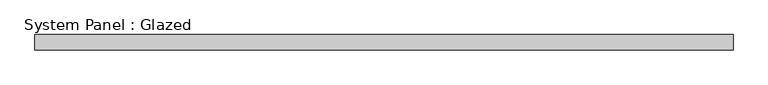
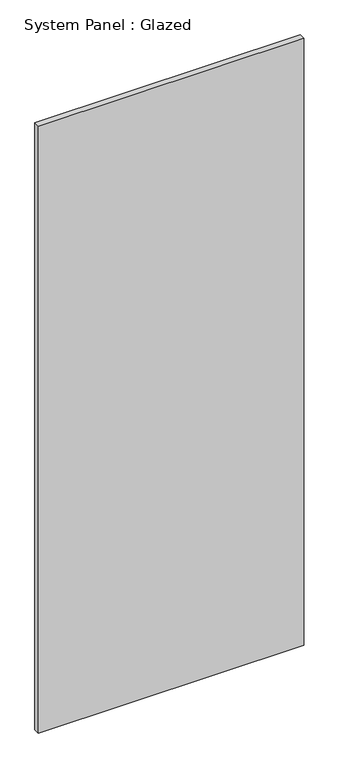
"""IFC4 building model written with IfcOpenShell, lengths in millimetres: plate geometry, System Panel : Glazed."""

import ifcopenshell
import ifcopenshell.guid

model = None  # the IFC model being written
_history = None  # IfcOwnerHistory: only IFC2X3 demands one
_inside = {}  # id of a spatial element -> (the spatial element, [elements in it])
_under = {}  # id of a project, library or spatial element -> (it, [spatial elements below it])
_declared = {}  # id of a project -> (the project, [libraries it declares])
_typed = {}  # id of a type object -> (the type object, [elements of that type])
_made_of = {}  # id of a material, layer set ... -> (it, [elements and type objects made of it])


def new_model(schema):
    """Start an empty IFC model of exactly this schema.

    Asked for "IFC4X3", IfcOpenShell would pick the latest addendum, in which some entities
    have other attributes; the version numbers below select the first issue.
    IFC2X3 requires an IfcOwnerHistory on every rooted entity: one is made here for all.
    """
    global model, _history
    if schema == "IFC4X3":
        model = ifcopenshell.file(schema_version=(4, 3, 0, 0))
    else:
        model = ifcopenshell.file(schema=schema)
    _inside.clear()
    _under.clear()
    _declared.clear()
    _typed.clear()
    _made_of.clear()
    _history = None
    if model.schema == "IFC2X3":
        org = make("IfcOrganization", Name="unknown")
        user = make(
            "IfcPersonAndOrganization",
            ThePerson=make("IfcPerson", FamilyName="unknown"),
            TheOrganization=org,
        )
        app = make(
            "IfcApplication",
            ApplicationDeveloper=org,
            Version="unknown",
            ApplicationFullName="unknown",
            ApplicationIdentifier="unknown",
        )
        _history = make(
            "IfcOwnerHistory",
            OwningUser=user,
            OwningApplication=app,
            ChangeAction="ADDED",
            CreationDate=0,
        )
    return model


def make(cls, **values):
    """One entity of the class cls with the attributes given. An attribute that is None is left unset."""
    return model.create_entity(
        cls, **{name: value for name, value in values.items() if value is not None}
    )


def rooted(cls, **values):
    """An entity with a GlobalId (a new one), such as an element, a storey or a relation."""
    return make(cls, GlobalId=ifcopenshell.guid.new(), OwnerHistory=_history, **values)


def si_unit(unit_type, name, prefix=None):
    """IfcSIUnit, for example si_unit("LENGTHUNIT", "METRE", prefix="MILLI")."""
    return make("IfcSIUnit", UnitType=unit_type, Prefix=prefix, Name=name)


def assignment(units):
    """IfcUnitAssignment: the units of a project."""
    return None if units is None else make("IfcUnitAssignment", Units=units)


def point(xyz):
    """IfcCartesianPoint."""
    return None if xyz is None else make("IfcCartesianPoint", Coordinates=xyz)


def direction(xyz):
    """IfcDirection."""
    return None if xyz is None else make("IfcDirection", DirectionRatios=xyz)


def frame(location, z_axis=None, x_axis=None):
    """IfcAxis2Placement3D, a coordinate frame: its origin and axes. An axis left out is left unset."""
    return make(
        "IfcAxis2Placement3D",
        Location=point(location),
        Axis=direction(z_axis),
        RefDirection=direction(x_axis),
    )


def origin():
    """The frame at (0, 0, 0) with its axes left unset."""
    return frame((0.0, 0.0, 0.0))


def origin_with_axes():
    """The frame at (0, 0, 0) with the z axis (0, 0, 1) and the x axis (1, 0, 0) written out."""
    return frame((0.0, 0.0, 0.0), z_axis=(0.0, 0.0, 1.0), x_axis=(1.0, 0.0, 0.0))


def place(relative_to, where):
    """IfcLocalPlacement: puts the frame where relative to a parent placement (None: the world)."""
    return make(
        "IfcLocalPlacement", PlacementRelTo=relative_to, RelativePlacement=where
    )


def context(
    kind, dimensions, precision=None, world=None, true_north=None, identifier=None
):
    """IfcGeometricRepresentationContext, for example the 3D "Model" context."""
    return make(
        "IfcGeometricRepresentationContext",
        ContextIdentifier=identifier,
        ContextType=kind,
        CoordinateSpaceDimension=dimensions,
        Precision=precision,
        WorldCoordinateSystem=world,
        TrueNorth=true_north,
    )


def project(units=None, contexts=None):
    """IfcProject with its units and contexts."""
    return rooted(
        "IfcProject",
        Name="project",
        RepresentationContexts=contexts,
        UnitsInContext=assignment(units),
    )


def spatial(cls, under=None, at=None, **own):
    """A site, building, storey or space (cls), placed at a placement, below another one or the project."""
    s = rooted(cls, ObjectPlacement=at, **own)
    if under is not None:
        _under.setdefault(under.id(), (under, []))[1].append(s)
    return s


def polyline(points):
    """IfcPolyline through the points."""
    return make("IfcPolyline", Points=[point(p) for p in points])


def outline(outer, holes=None, kind="AREA"):
    """IfcArbitraryClosedProfileDef: a profile drawn as a closed curve; with holes, ...WithVoids."""
    if holes is None:
        return make("IfcArbitraryClosedProfileDef", ProfileType=kind, OuterCurve=outer)
    return make(
        "IfcArbitraryProfileDefWithVoids",
        ProfileType=kind,
        OuterCurve=outer,
        InnerCurves=holes,
    )


def extrude(swept, where, along, depth):
    """IfcExtrudedAreaSolid: the profile swept, set in the frame where, extruded along a direction by depth."""
    return make(
        "IfcExtrudedAreaSolid",
        SweptArea=swept,
        Position=where,
        ExtrudedDirection=direction(along),
        Depth=depth,
    )


def shape(context_of_items, identifier, shape_type, items):
    """IfcShapeRepresentation: the items that make up one representation, for example the "Body"."""
    return make(
        "IfcShapeRepresentation",
        ContextOfItems=context_of_items,
        RepresentationIdentifier=identifier,
        RepresentationType=shape_type,
        Items=items,
    )


def source(mapping_origin, context_of_items, identifier, shape_type, items):
    """IfcRepresentationMap: a shape defined once, which mapped items show again and again."""
    return make(
        "IfcRepresentationMap",
        MappingOrigin=mapping_origin,
        MappedRepresentation=shape(context_of_items, identifier, shape_type, items),
    )


def transform(
    local_origin,
    x_axis=None,
    y_axis=None,
    z_axis=None,
    scale=None,
    scale2=None,
    scale3=None,
    uniform=True,
):
    """IfcCartesianTransformationOperator3D, or its non-uniform kind. x_axis, y_axis, z_axis: its Axis1, 2, 3."""
    if uniform:
        return make(
            "IfcCartesianTransformationOperator3D",
            Axis1=direction(x_axis),
            Axis2=direction(y_axis),
            LocalOrigin=point(local_origin),
            Scale=scale,
            Axis3=direction(z_axis),
        )
    return make(
        "IfcCartesianTransformationOperator3DnonUniform",
        Axis1=direction(x_axis),
        Axis2=direction(y_axis),
        LocalOrigin=point(local_origin),
        Scale=scale,
        Axis3=direction(z_axis),
        Scale2=scale2,
        Scale3=scale3,
    )


def mapped(mapping_source, mapping_target):
    """IfcMappedItem: shows the shape of a source again, moved by a transform."""
    return make(
        "IfcMappedItem", MappingSource=mapping_source, MappingTarget=mapping_target
    )


def made_of(thing, what):
    """Note that an element or type object is made of a material, layer set ...; save() writes the relation."""
    if what is not None:
        _made_of.setdefault(what.id(), (what, []))[1].append(thing)
    return thing


def element(
    cls,
    number,
    at=None,
    inside=None,
    cuts=None,
    type_object=None,
    material=None,
    context=None,
    identifier="Body",
    shape_type=None,
    held_by="IfcProductDefinitionShape",
    body=None,
    shapes=None,
    **own,
):
    """One element of the class cls, such as IfcWall. Its Tag is "e" and its number.

    at: its placement. inside: the storey or other place that contains it. cuts: it is an
    opening in that element (IfcRelVoidsElement). A single representation is given by context,
    identifier, shape_type and body (its items); several are given by shapes. held_by: the class
    of the entity that holds the representations. save() writes the other relations.
    """
    e = rooted(cls, Tag="e%d" % number, ObjectPlacement=at, **own)
    if body is not None:
        shapes = [shape(context, identifier, shape_type, body)]
    if shapes is not None:
        e.Representation = make(held_by, Representations=shapes)
    if inside is not None:
        _inside.setdefault(inside.id(), (inside, []))[1].append(e)
    if cuts is not None:
        rooted(
            "IfcRelVoidsElement", RelatingBuildingElement=cuts, RelatedOpeningElement=e
        )
    if type_object is not None:
        _typed.setdefault(type_object.id(), (type_object, []))[1].append(e)
    return made_of(e, material)


def aggregate(whole, parts):
    """IfcRelAggregates: a whole, such as a stair, and the parts it consists of."""
    return rooted("IfcRelAggregates", RelatingObject=whole, RelatedObjects=parts)


def save(model, path):
    """Write the relations noted so far, then the file.

    IfcRelAggregates (storeys below a building ...), IfcRelContainedInSpatialStructure (elements
    in a storey), IfcRelDefinesByType, IfcRelAssociatesMaterial and IfcRelDeclares: one each for
    every whole, place, type object, material and project.
    """
    for whole, parts in _under.values():
        aggregate(whole, parts)
    for where, things in _inside.values():
        rooted(
            "IfcRelContainedInSpatialStructure",
            RelatedElements=things,
            RelatingStructure=where,
        )
    for kind, things in _typed.values():
        rooted("IfcRelDefinesByType", RelatedObjects=things, RelatingType=kind)
    for what, things in _made_of.values():
        rooted("IfcRelAssociatesMaterial", RelatedObjects=things, RelatingMaterial=what)
    for by, libraries in _declared.values():
        rooted("IfcRelDeclares", RelatingContext=by, RelatedDefinitions=libraries)
    model.write(path)


def system_panel_glazed_f584d928(model_context):
    return source(origin(), model_context, "Body", "SweptSolid", [
        extrude(outline(polyline([(578.870352, -44.45), (-578.870352, -44.45), (-578.870352, -19.05), (578.870352, -19.05), (578.870352, -44.45)])), origin_with_axes(), (0.0, 0.0, 1.0), 2800.0),
    ])


if __name__ == "__main__":
    model = new_model("IFC4")
    model_context = context("Model", 3, world=origin())
    ifc_project = project(units=[si_unit("LENGTHUNIT", "METRE", prefix="MILLI")], contexts=[model_context])
    site = spatial("IfcSite", under=ifc_project)
    building = spatial("IfcBuilding", under=site)
    placement = place(None, origin())
    system_panel_glazed_shape = system_panel_glazed_f584d928(model_context)
    element("IfcPlate", 1, ObjectType="System Panel : Glazed", at=placement, inside=building, context=model_context, shape_type="MappedRepresentation", body=[
        mapped(system_panel_glazed_shape, transform((0.0, 0.0, 0.0), x_axis=(1.0, 0.0, 0.0), y_axis=(0.0, 1.0, 0.0), z_axis=(0.0, 0.0, 1.0))),
    ])
    save(model, "model.ifc")
